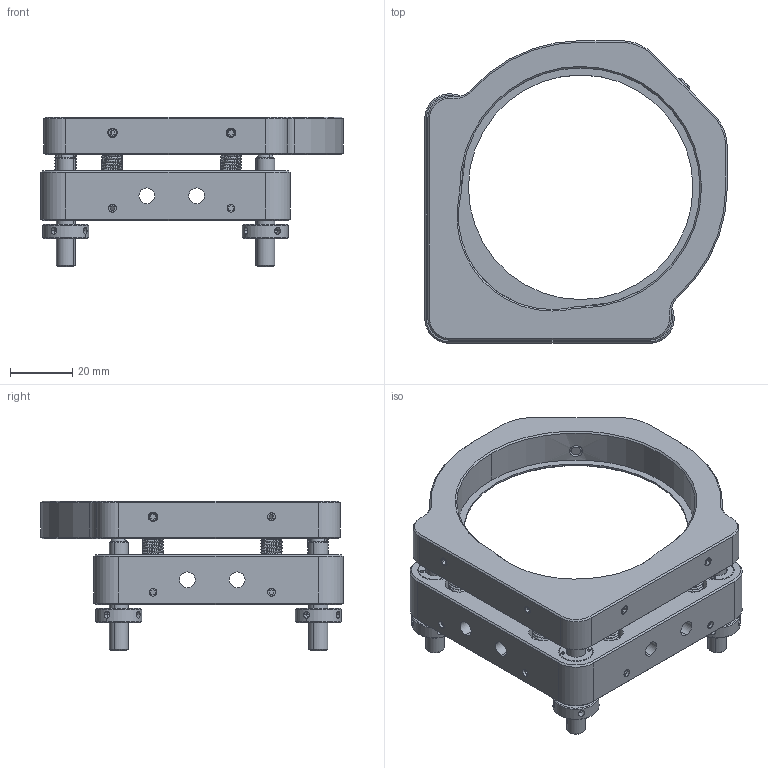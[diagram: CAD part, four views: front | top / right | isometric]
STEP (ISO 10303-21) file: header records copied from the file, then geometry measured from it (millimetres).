
FILE_DESCRIPTION (( 'STEP AP203' ), '1' );
FILE_NAME ('NMHS76.2.STEP', '2021-09-22T03:27:41', ( 'Windows User' ), ( 'P R C' ), 'SwSTEP 2.0', 'SolidWorks 2020', '' );
FILE_SCHEMA (( 'CONFIG_CONTROL_DESIGN' ));
Length unit declared in the file: millimetre
Products named in the file (1): NMHS76.2
Bounding box: 97 x 97 x 47.96 mm (x, y, z)
Surface area: 34169.5 mm2 (no closed solid volume)
Topology: 0 solids, 35 shells, 449 faces, 1195 edges, 754 vertices
Faces by surface type: cylinder 159, plane 145, cone 131, bspline 8, sphere 6
Entity records: 30933 total; most frequent: CARTESIAN_POINT 19877, DIRECTION 2364, ORIENTED_EDGE 2080, EDGE_CURVE 1154, AXIS2_PLACEMENT_3D 878, VERTEX_POINT 745, VECTOR 608, LINE 608
